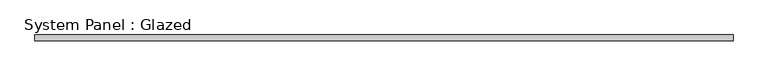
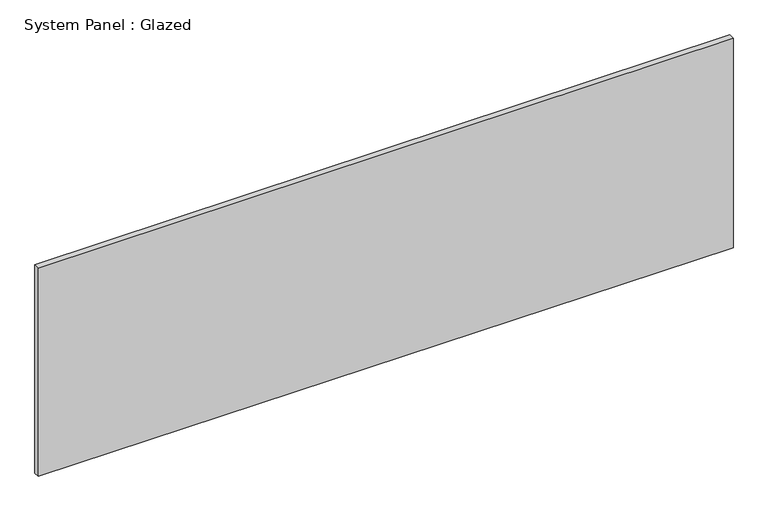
"""IFC4 building model written with IfcOpenShell, lengths in millimetres: plate geometry, System Panel : Glazed."""

import ifcopenshell
import ifcopenshell.guid

model = None  # the IFC model being written
_history = None  # IfcOwnerHistory: only IFC2X3 demands one
_inside = {}  # id of a spatial element -> (the spatial element, [elements in it])
_under = {}  # id of a project, library or spatial element -> (it, [spatial elements below it])
_declared = {}  # id of a project -> (the project, [libraries it declares])
_typed = {}  # id of a type object -> (the type object, [elements of that type])
_made_of = {}  # id of a material, layer set ... -> (it, [elements and type objects made of it])


def new_model(schema):
    """Start an empty IFC model of exactly this schema.

    Asked for "IFC4X3", IfcOpenShell would pick the latest addendum, in which some entities
    have other attributes; the version numbers below select the first issue.
    IFC2X3 requires an IfcOwnerHistory on every rooted entity: one is made here for all.
    """
    global model, _history
    if schema == "IFC4X3":
        model = ifcopenshell.file(schema_version=(4, 3, 0, 0))
    else:
        model = ifcopenshell.file(schema=schema)
    _inside.clear()
    _under.clear()
    _declared.clear()
    _typed.clear()
    _made_of.clear()
    _history = None
    if model.schema == "IFC2X3":
        org = make("IfcOrganization", Name="unknown")
        user = make(
            "IfcPersonAndOrganization",
            ThePerson=make("IfcPerson", FamilyName="unknown"),
            TheOrganization=org,
        )
        app = make(
            "IfcApplication",
            ApplicationDeveloper=org,
            Version="unknown",
            ApplicationFullName="unknown",
            ApplicationIdentifier="unknown",
        )
        _history = make(
            "IfcOwnerHistory",
            OwningUser=user,
            OwningApplication=app,
            ChangeAction="ADDED",
            CreationDate=0,
        )
    return model


def make(cls, **values):
    """One entity of the class cls with the attributes given. An attribute that is None is left unset."""
    return model.create_entity(
        cls, **{name: value for name, value in values.items() if value is not None}
    )


def rooted(cls, **values):
    """An entity with a GlobalId (a new one), such as an element, a storey or a relation."""
    return make(cls, GlobalId=ifcopenshell.guid.new(), OwnerHistory=_history, **values)


def si_unit(unit_type, name, prefix=None):
    """IfcSIUnit, for example si_unit("LENGTHUNIT", "METRE", prefix="MILLI")."""
    return make("IfcSIUnit", UnitType=unit_type, Prefix=prefix, Name=name)


def assignment(units):
    """IfcUnitAssignment: the units of a project."""
    return None if units is None else make("IfcUnitAssignment", Units=units)


def point(xyz):
    """IfcCartesianPoint."""
    return None if xyz is None else make("IfcCartesianPoint", Coordinates=xyz)


def direction(xyz):
    """IfcDirection."""
    return None if xyz is None else make("IfcDirection", DirectionRatios=xyz)


def frame(location, z_axis=None, x_axis=None):
    """IfcAxis2Placement3D, a coordinate frame: its origin and axes. An axis left out is left unset."""
    return make(
        "IfcAxis2Placement3D",
        Location=point(location),
        Axis=direction(z_axis),
        RefDirection=direction(x_axis),
    )


def origin():
    """The frame at (0, 0, 0) with its axes left unset."""
    return frame((0.0, 0.0, 0.0))


def place(relative_to, where):
    """IfcLocalPlacement: puts the frame where relative to a parent placement (None: the world)."""
    return make(
        "IfcLocalPlacement", PlacementRelTo=relative_to, RelativePlacement=where
    )


def context(
    kind, dimensions, precision=None, world=None, true_north=None, identifier=None
):
    """IfcGeometricRepresentationContext, for example the 3D "Model" context."""
    return make(
        "IfcGeometricRepresentationContext",
        ContextIdentifier=identifier,
        ContextType=kind,
        CoordinateSpaceDimension=dimensions,
        Precision=precision,
        WorldCoordinateSystem=world,
        TrueNorth=true_north,
    )


def project(units=None, contexts=None):
    """IfcProject with its units and contexts."""
    return rooted(
        "IfcProject",
        Name="project",
        RepresentationContexts=contexts,
        UnitsInContext=assignment(units),
    )


def spatial(cls, under=None, at=None, **own):
    """A site, building, storey or space (cls), placed at a placement, below another one or the project."""
    s = rooted(cls, ObjectPlacement=at, **own)
    if under is not None:
        _under.setdefault(under.id(), (under, []))[1].append(s)
    return s


def polyline(points):
    """IfcPolyline through the points."""
    return make("IfcPolyline", Points=[point(p) for p in points])


def outline(outer, holes=None, kind="AREA"):
    """IfcArbitraryClosedProfileDef: a profile drawn as a closed curve; with holes, ...WithVoids."""
    if holes is None:
        return make("IfcArbitraryClosedProfileDef", ProfileType=kind, OuterCurve=outer)
    return make(
        "IfcArbitraryProfileDefWithVoids",
        ProfileType=kind,
        OuterCurve=outer,
        InnerCurves=holes,
    )


def extrude(swept, where, along, depth):
    """IfcExtrudedAreaSolid: the profile swept, set in the frame where, extruded along a direction by depth."""
    return make(
        "IfcExtrudedAreaSolid",
        SweptArea=swept,
        Position=where,
        ExtrudedDirection=direction(along),
        Depth=depth,
    )


def shape(context_of_items, identifier, shape_type, items):
    """IfcShapeRepresentation: the items that make up one representation, for example the "Body"."""
    return make(
        "IfcShapeRepresentation",
        ContextOfItems=context_of_items,
        RepresentationIdentifier=identifier,
        RepresentationType=shape_type,
        Items=items,
    )


def source(mapping_origin, context_of_items, identifier, shape_type, items):
    """IfcRepresentationMap: a shape defined once, which mapped items show again and again."""
    return make(
        "IfcRepresentationMap",
        MappingOrigin=mapping_origin,
        MappedRepresentation=shape(context_of_items, identifier, shape_type, items),
    )


def transform(
    local_origin,
    x_axis=None,
    y_axis=None,
    z_axis=None,
    scale=None,
    scale2=None,
    scale3=None,
    uniform=True,
):
    """IfcCartesianTransformationOperator3D, or its non-uniform kind. x_axis, y_axis, z_axis: its Axis1, 2, 3."""
    if uniform:
        return make(
            "IfcCartesianTransformationOperator3D",
            Axis1=direction(x_axis),
            Axis2=direction(y_axis),
            LocalOrigin=point(local_origin),
            Scale=scale,
            Axis3=direction(z_axis),
        )
    return make(
        "IfcCartesianTransformationOperator3DnonUniform",
        Axis1=direction(x_axis),
        Axis2=direction(y_axis),
        LocalOrigin=point(local_origin),
        Scale=scale,
        Axis3=direction(z_axis),
        Scale2=scale2,
        Scale3=scale3,
    )


def mapped(mapping_source, mapping_target):
    """IfcMappedItem: shows the shape of a source again, moved by a transform."""
    return make(
        "IfcMappedItem", MappingSource=mapping_source, MappingTarget=mapping_target
    )


def made_of(thing, what):
    """Note that an element or type object is made of a material, layer set ...; save() writes the relation."""
    if what is not None:
        _made_of.setdefault(what.id(), (what, []))[1].append(thing)
    return thing


def element(
    cls,
    number,
    at=None,
    inside=None,
    cuts=None,
    type_object=None,
    material=None,
    context=None,
    identifier="Body",
    shape_type=None,
    held_by="IfcProductDefinitionShape",
    body=None,
    shapes=None,
    **own,
):
    """One element of the class cls, such as IfcWall. Its Tag is "e" and its number.

    at: its placement. inside: the storey or other place that contains it. cuts: it is an
    opening in that element (IfcRelVoidsElement). A single representation is given by context,
    identifier, shape_type and body (its items); several are given by shapes. held_by: the class
    of the entity that holds the representations. save() writes the other relations.
    """
    e = rooted(cls, Tag="e%d" % number, ObjectPlacement=at, **own)
    if body is not None:
        shapes = [shape(context, identifier, shape_type, body)]
    if shapes is not None:
        e.Representation = make(held_by, Representations=shapes)
    if inside is not None:
        _inside.setdefault(inside.id(), (inside, []))[1].append(e)
    if cuts is not None:
        rooted(
            "IfcRelVoidsElement", RelatingBuildingElement=cuts, RelatedOpeningElement=e
        )
    if type_object is not None:
        _typed.setdefault(type_object.id(), (type_object, []))[1].append(e)
    return made_of(e, material)


def aggregate(whole, parts):
    """IfcRelAggregates: a whole, such as a stair, and the parts it consists of."""
    return rooted("IfcRelAggregates", RelatingObject=whole, RelatedObjects=parts)


def save(model, path):
    """Write the relations noted so far, then the file.

    IfcRelAggregates (storeys below a building ...), IfcRelContainedInSpatialStructure (elements
    in a storey), IfcRelDefinesByType, IfcRelAssociatesMaterial and IfcRelDeclares: one each for
    every whole, place, type object, material and project.
    """
    for whole, parts in _under.values():
        aggregate(whole, parts)
    for where, things in _inside.values():
        rooted(
            "IfcRelContainedInSpatialStructure",
            RelatedElements=things,
            RelatingStructure=where,
        )
    for kind, things in _typed.values():
        rooted("IfcRelDefinesByType", RelatedObjects=things, RelatingType=kind)
    for what, things in _made_of.values():
        rooted("IfcRelAssociatesMaterial", RelatedObjects=things, RelatingMaterial=what)
    for by, libraries in _declared.values():
        rooted("IfcRelDeclares", RelatingContext=by, RelatedDefinitions=libraries)
    model.write(path)


def system_panel_glazed_ca24624d(model_context):
    return source(origin(), model_context, "Body", "SweptSolid", [
        extrude(outline(polyline([(6.3893855, -1504.95), (0.0, 1504.95), (959.6618721, 1504.95), (959.6618721, -1504.95), (6.3893855, -1504.95)])), frame((0.0, 19.05, 0.0), z_axis=(0.0, 1.0, 0.0), x_axis=(0.0, 0.0, 1.0)), (0.0, 0.0, 1.0), 25.4),
    ])


if __name__ == "__main__":
    model = new_model("IFC4")
    model_context = context("Model", 3, world=origin())
    ifc_project = project(units=[si_unit("LENGTHUNIT", "METRE", prefix="MILLI")], contexts=[model_context])
    site = spatial("IfcSite", under=ifc_project)
    building = spatial("IfcBuilding", under=site)
    placement = place(None, origin())
    system_panel_glazed_shape = system_panel_glazed_ca24624d(model_context)
    element("IfcPlate", 1, ObjectType="System Panel : Glazed", at=placement, inside=building, context=model_context, shape_type="MappedRepresentation", body=[
        mapped(system_panel_glazed_shape, transform((0.0, 0.0, 0.0), x_axis=(1.0, 0.0, 0.0), y_axis=(0.0, 1.0, 0.0), z_axis=(0.0, 0.0, 1.0))),
    ])
    save(model, "model.ifc")
